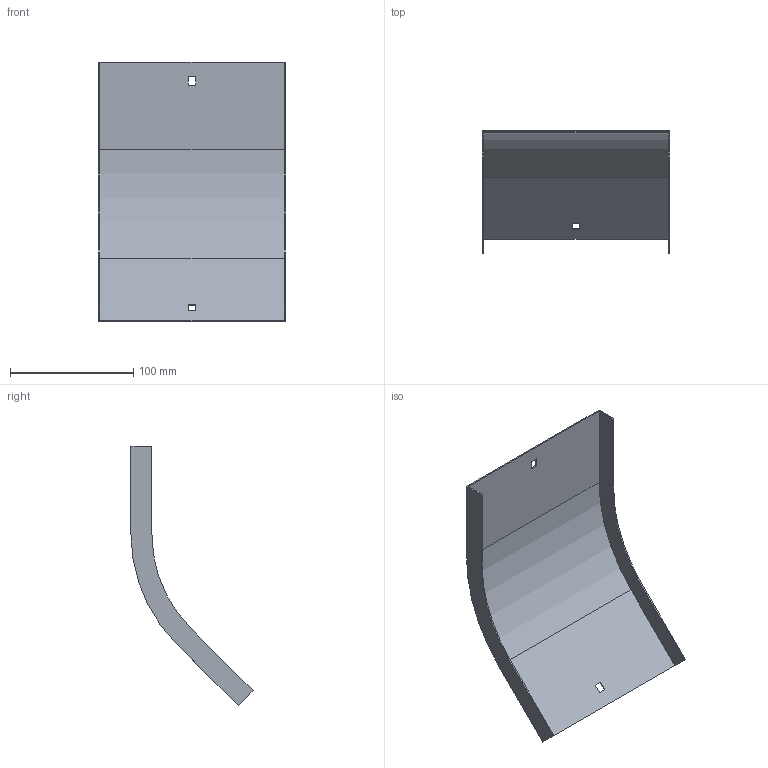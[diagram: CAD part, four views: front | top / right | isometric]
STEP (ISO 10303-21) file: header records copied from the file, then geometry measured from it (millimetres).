
FILE_DESCRIPTION (( 'STEP AP214' ), '1' );
FILE_NAME ('OD4_157.step', '2025-07-16T09:11:32', ( '' ), ( '' ), 'SwSTEP 2.0', 'SolidWorks 2023', '' );
FILE_SCHEMA (( 'AUTOMOTIVE_DESIGN' ));
Length unit declared in the file: millimetre
Products named in the file (1): OD4_157
Bounding box: 152 x 99.13 x 210.3 mm (x, y, z)
Volume: 43966.8 mm3; surface area: 88809.6 mm2
Topology: 1 solids, 1 shells, 26 faces, 72 edges, 48 vertices
Faces by surface type: plane 22, cylinder 4
Entity records: 855 total; most frequent: CARTESIAN_POINT 147, ORIENTED_EDGE 144, DIRECTION 134, EDGE_CURVE 72, VECTOR 64, LINE 64, VERTEX_POINT 48, AXIS2_PLACEMENT_3D 35
